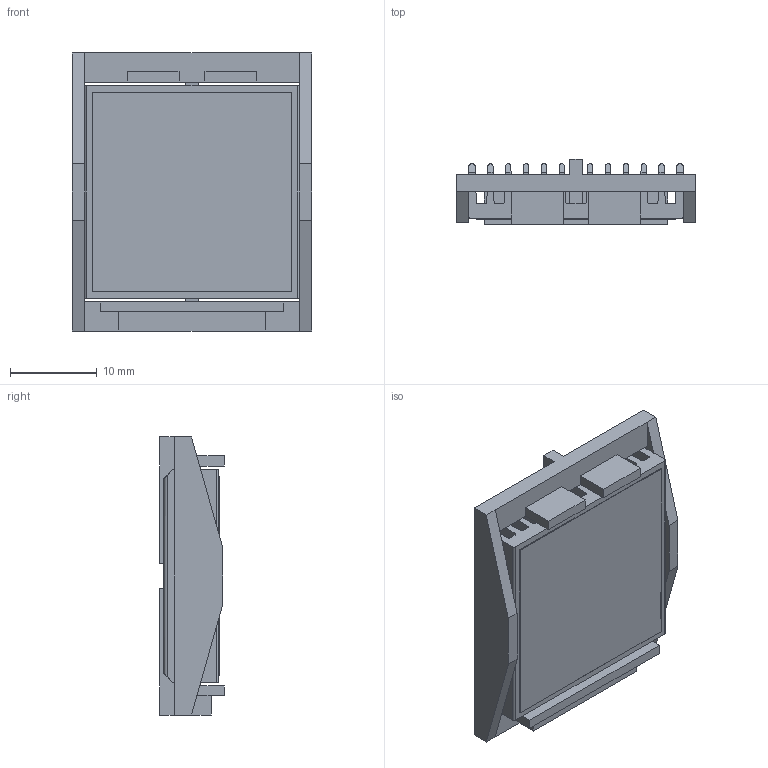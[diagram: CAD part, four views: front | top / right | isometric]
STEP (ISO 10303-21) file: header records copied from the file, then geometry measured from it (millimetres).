
FILE_DESCRIPTION (( 'STEP AP214' ), '1' );
FILE_NAME ('INL25001-6-1.7O.STEP', '2023-02-21T19:28:00', ( '' ), ( '' ), 'SwSTEP 2.0', 'SolidWorks 2020', '' );
FILE_SCHEMA (( 'AUTOMOTIVE_DESIGN' ));
Length unit declared in the file: millimetre
Products named in the file (1): INL25001-6-1.7O
Bounding box: 27.7 x 7.5 x 32.1 mm (x, y, z)
Volume: 3114.6 mm3; surface area: 6763.3 mm2
Topology: 3 solids, 3 shells, 152 faces, 440 edges, 292 vertices
Faces by surface type: plane 116, cylinder 36
Entity records: 6668 total; most frequent: CARTESIAN_POINT 957, ORIENTED_EDGE 880, DIRECTION 770, EDGE_CURVE 440, LINE 368, VECTOR 368, VERTEX_POINT 292, AXIS2_PLACEMENT_3D 201
